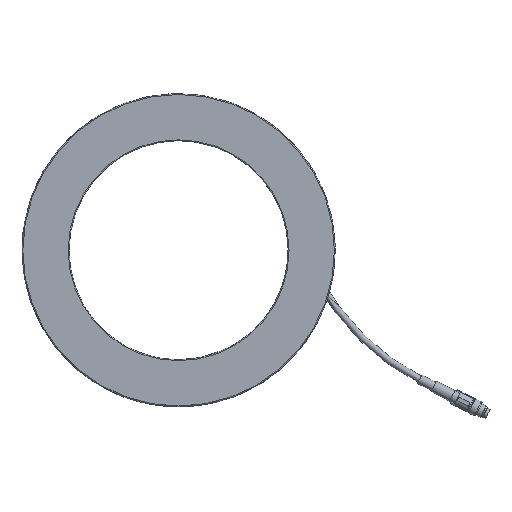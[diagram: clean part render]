
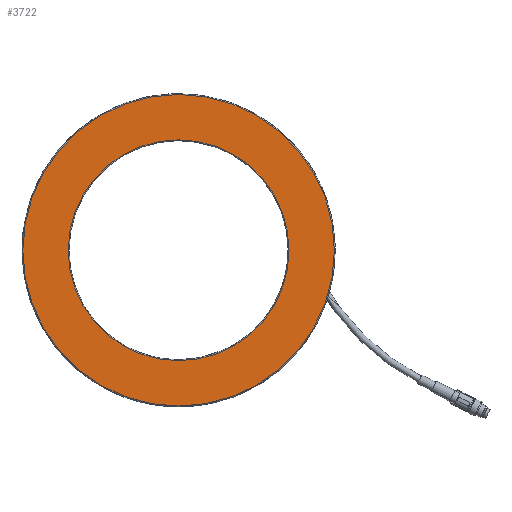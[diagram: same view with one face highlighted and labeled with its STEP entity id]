
A CAD part, top view. The second image highlights one B-rep face of the part: STEP entity #3722.
In plain terms, the highlighted planar face has unit normal (0, 0, 1).
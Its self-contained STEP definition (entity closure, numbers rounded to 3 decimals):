
#104=PLANE('',#3915);
#484=ORIENTED_EDGE('',*,*,#1169,.T.);
#485=ORIENTED_EDGE('',*,*,#1170,.T.);
#1169=EDGE_CURVE('',#1511,#1511,#1750,.F.);
#1170=EDGE_CURVE('',#1512,#1512,#1751,.T.);
#1511=VERTEX_POINT('',#5076);
#1512=VERTEX_POINT('',#5079);
#1750=CIRCLE('',#3914,99.5);
#1751=CIRCLE('',#3916,70.5);
#1901=EDGE_LOOP('',(#484));
#1902=EDGE_LOOP('',(#485));
#2156=FACE_BOUND('',#1901,.T.);
#2157=FACE_BOUND('',#1902,.T.);
#3722=ADVANCED_FACE('',(#2156,#2157),#104,.F.);
#3914=AXIS2_PLACEMENT_3D('',#5075,#4275,#4276);
#3915=AXIS2_PLACEMENT_3D('',#5077,#4277,#4278);
#3916=AXIS2_PLACEMENT_3D('',#5078,#4279,#4280);
#4275=DIRECTION('',(0.,0.,-1.));
#4276=DIRECTION('',(-1.,0.,0.));
#4277=DIRECTION('',(0.,0.,-1.));
#4278=DIRECTION('',(-1.,0.,0.));
#4279=DIRECTION('',(0.,0.,-1.));
#4280=DIRECTION('',(-1.,0.,0.));
#5075=CARTESIAN_POINT('',(0.,0.,12.));
#5076=CARTESIAN_POINT('',(-99.5,0.,12.));
#5077=CARTESIAN_POINT('',(0.,0.,12.));
#5078=CARTESIAN_POINT('',(0.,0.,12.));
#5079=CARTESIAN_POINT('',(-70.5,0.,12.));
